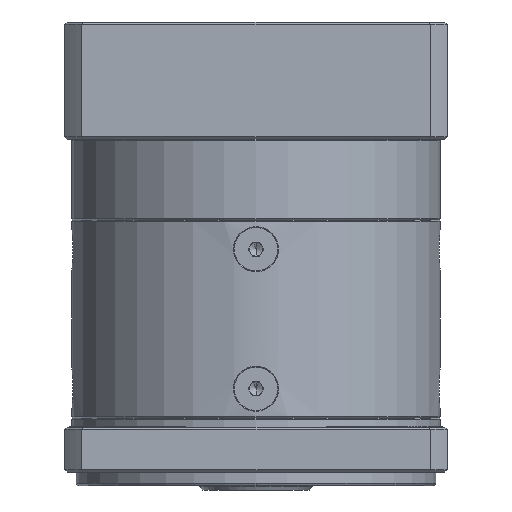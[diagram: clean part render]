
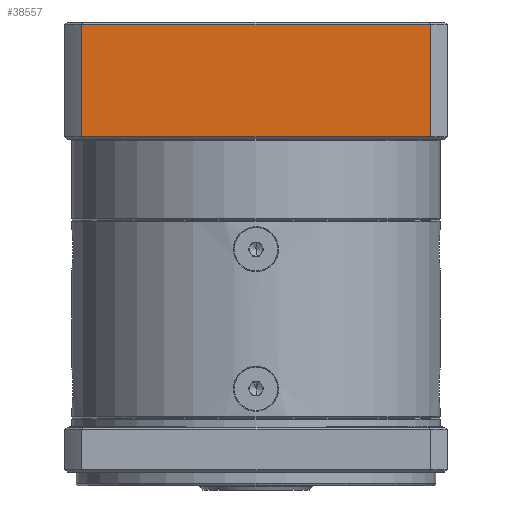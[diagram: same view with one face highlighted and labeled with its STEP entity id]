
A CAD part, front view. The second image highlights one B-rep face of the part: STEP entity #38557.
In plain terms, the highlighted planar face has unit normal (0, -1, 0).
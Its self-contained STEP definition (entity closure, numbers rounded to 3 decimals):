
#556 = DIRECTION ( 'NONE',  ( 0., 0., -1. ) ) ;
#4121 = VERTEX_POINT ( 'NONE', #106329 ) ;
#5007 = DIRECTION ( 'NONE',  ( 0., 1., 0. ) ) ;
#13309 = VERTEX_POINT ( 'NONE', #109150 ) ;
#16683 = FACE_OUTER_BOUND ( 'NONE', #68932, .T. ) ;
#25563 = ORIENTED_EDGE ( 'NONE', *, *, #77788, .F. ) ;
#29865 = ORIENTED_EDGE ( 'NONE', *, *, #90751, .F. ) ;
#33583 = DIRECTION ( 'NONE',  ( 1., 0., 0. ) ) ;
#34710 = VECTOR ( 'NONE', #62913, 1000. ) ;
#35097 = VECTOR ( 'NONE', #100859, 1000. ) ;
#37805 = LINE ( 'NONE', #75655, #35097 ) ;
#38557 = ADVANCED_FACE ( 'NONE', ( #16683 ), #63988, .F. ) ;
#45765 = LINE ( 'NONE', #60995, #65768 ) ;
#56165 = CARTESIAN_POINT ( 'NONE',  ( -14.357, 7.34, 25.528 ) ) ;
#58316 = CARTESIAN_POINT ( 'NONE',  ( -91.817, 7.34, 25.028 ) ) ;
#58744 = VECTOR ( 'NONE', #33583, 1000. ) ;
#60995 = CARTESIAN_POINT ( 'NONE',  ( -14.357, 7.34, 25.528 ) ) ;
#62913 = DIRECTION ( 'NONE',  ( 1., 0., 0. ) ) ;
#63988 = PLANE ( 'NONE',  #64494 ) ;
#64494 = AXIS2_PLACEMENT_3D ( 'NONE', #56165, #5007, #64712 ) ;
#64712 = DIRECTION ( 'NONE',  ( -1., 0., 0. ) ) ;
#65768 = VECTOR ( 'NONE', #556, 1000. ) ;
#67559 = CARTESIAN_POINT ( 'NONE',  ( -14.357, 7.34, 25.028 ) ) ;
#68932 = EDGE_LOOP ( 'NONE', ( #87796, #101268, #25563, #29865 ) ) ;
#71496 = CARTESIAN_POINT ( 'NONE',  ( -91.817, 7.34, 0.028 ) ) ;
#75655 = CARTESIAN_POINT ( 'NONE',  ( -91.817, 7.34, 25.528 ) ) ;
#77788 = EDGE_CURVE ( 'NONE', #93178, #13309, #83773, .T. ) ;
#83773 = LINE ( 'NONE', #67559, #58744 ) ;
#86699 = VERTEX_POINT ( 'NONE', #71496 ) ;
#87258 = CARTESIAN_POINT ( 'NONE',  ( -14.357, 7.34, 0.028 ) ) ;
#87796 = ORIENTED_EDGE ( 'NONE', *, *, #92010, .T. ) ;
#90751 = EDGE_CURVE ( 'NONE', #86699, #93178, #37805, .T. ) ;
#92010 = EDGE_CURVE ( 'NONE', #86699, #4121, #102472, .T. ) ;
#92825 = EDGE_CURVE ( 'NONE', #13309, #4121, #45765, .T. ) ;
#93178 = VERTEX_POINT ( 'NONE', #58316 ) ;
#100859 = DIRECTION ( 'NONE',  ( 0., 0., 1. ) ) ;
#101268 = ORIENTED_EDGE ( 'NONE', *, *, #92825, .F. ) ;
#102472 = LINE ( 'NONE', #87258, #34710 ) ;
#106329 = CARTESIAN_POINT ( 'NONE',  ( -14.357, 7.34, 0.028 ) ) ;
#109150 = CARTESIAN_POINT ( 'NONE',  ( -14.357, 7.34, 25.028 ) ) ;
